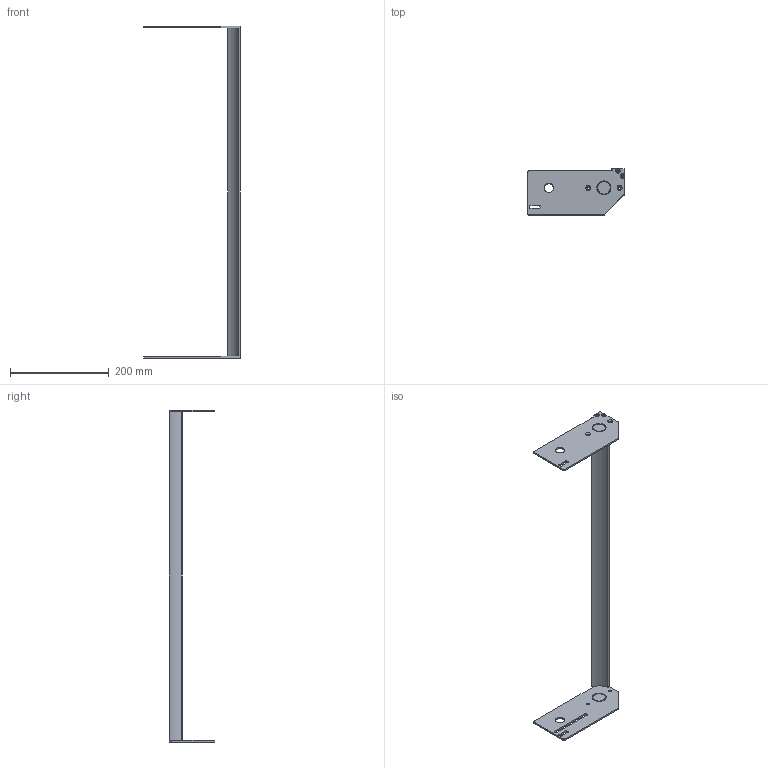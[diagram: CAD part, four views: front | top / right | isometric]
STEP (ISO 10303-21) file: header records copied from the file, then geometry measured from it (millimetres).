
FILE_DESCRIPTION((''),'2;1');
FILE_NAME('351040-26_ASM','2023-03-15T',('jenni.wallner'),(''),'PRO/ENGINEER BY PARAMETRIC TECHNOLOGY CORPORATION, 2012420','PRO/ENGINEER BY PARAMETRIC TECHNOLOGY CORPORATION, 2012420','');
FILE_SCHEMA(('CONFIG_CONTROL_DESIGN'));
Length unit declared in the file: inch
Products named in the file (6): 350539-WW_350539-26; 350538; 9304XXM_930410M; 350537; ASM0001_ASM; 351040-26_ASM
Assembly tree (8 placements, depth 3):
  351040-26_ASM
    ASM0001_ASM
      350539-WW_350539-26
      350538
      9304XXM_930410M  x4
      350537
Bounding box: 196.06 x 92.74 x 672.74 mm (x, y, z)
Volume: 287560.7 mm3; surface area: 143652.2 mm2
Topology: 7 solids, 7 shells, 216 faces, 536 edges, 334 vertices
Faces by surface type: cylinder 80, plane 76, cone 60
Entity records: 4970 total; most frequent: CARTESIAN_POINT 906, DIRECTION 885, ORIENTED_EDGE 790, EDGE_CURVE 395, AXIS2_PLACEMENT_3D 339, VERTEX_POINT 256, VECTOR 207, LINE 207
